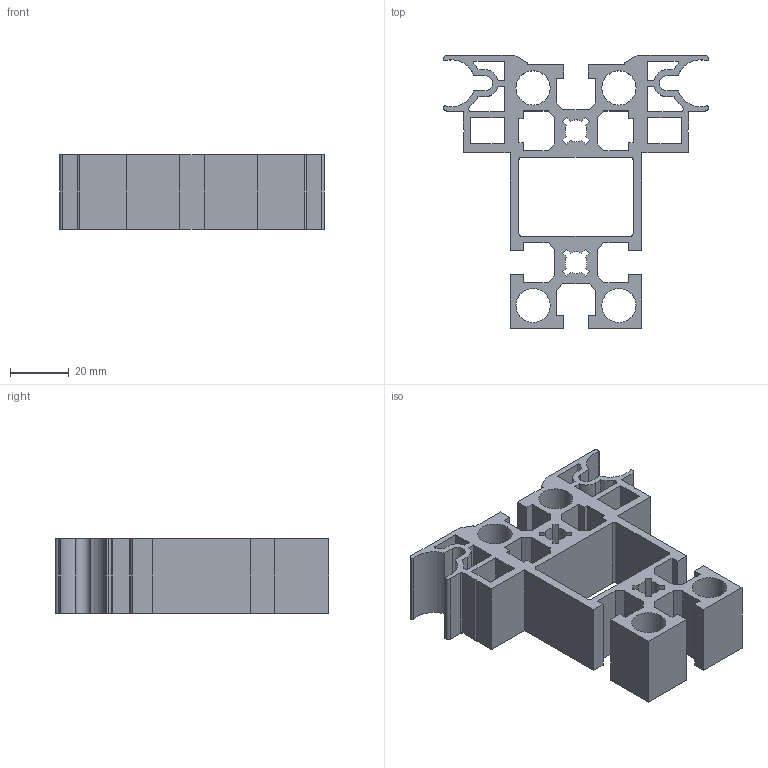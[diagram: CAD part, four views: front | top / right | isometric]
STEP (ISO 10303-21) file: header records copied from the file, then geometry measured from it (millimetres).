
FILE_DESCRIPTION((''),'2;1');
FILE_NAME('C:\Documents and Settings\Administrator\My Documents\Andys Backup Data\STEP LIBRARIES\MINITEC STEP LIBRARIES\READY FOR USE MODULES LR\28.0820 RAIL LR 16 45X90 H.stp','2009-01-15T08:56:45',('Administrator'),(''),'Autodesk Inventor 2009','Autodesk Inventor 2009','');
FILE_SCHEMA(('AUTOMOTIVE_DESIGN { 1 0 10303 214 1 1 1 1 }'));
Length unit declared in the file: inch
Products named in the file (1): 28.0820 RAIL LR 16 45X90 H
Bounding box: 90.33 x 93.25 x 25.4 mm (x, y, z)
Volume: 51002.3 mm3; surface area: 35643.1 mm2
Topology: 1 solids, 1 shells, 193 faces, 573 edges, 382 vertices
Faces by surface type: plane 144, cylinder 49
Full cylindrical faces by diameter (mm): 11.7 x4
Entity records: 6493 total; most frequent: CARTESIAN_POINT 1145, ORIENTED_EDGE 1138, DIRECTION 1055, EDGE_CURVE 569, VECTOR 471, LINE 471, VERTEX_POINT 382, AXIS2_PLACEMENT_3D 292
